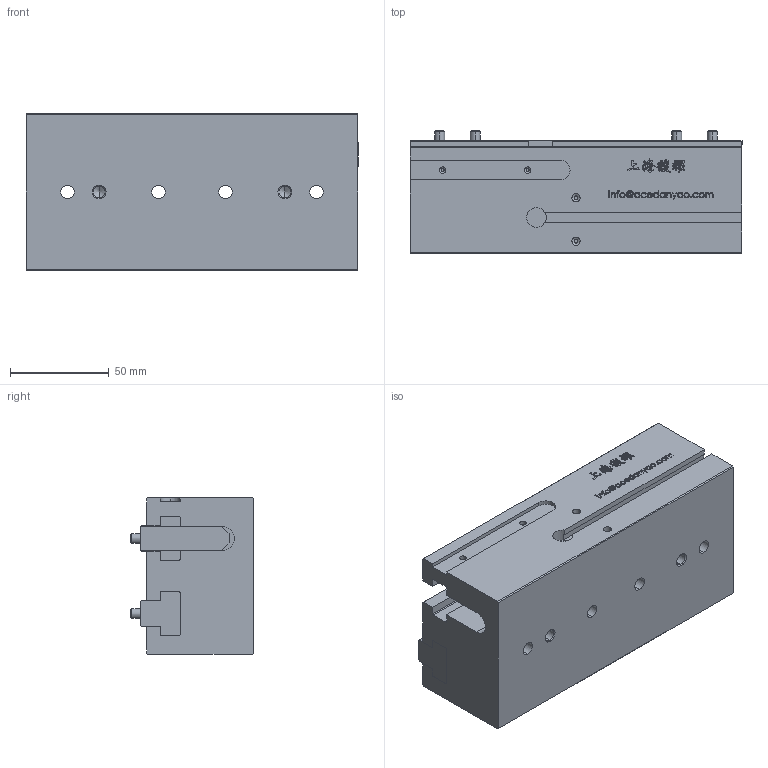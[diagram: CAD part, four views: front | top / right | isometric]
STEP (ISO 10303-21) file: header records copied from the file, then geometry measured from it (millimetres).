
FILE_DESCRIPTION (( 'STEP AP203' ), '1' );
FILE_NAME ('GPL25-60-原始檔-組合-W106.04.17.STEP', '2017-04-17T08:43:46', ( 'DanyaoCAD' ), ( '' ), 'SwSTEP 2.0', 'SolidWorks 2016', '' );
FILE_SCHEMA (( 'CONFIG_CONTROL_DESIGN' ));
Length unit declared in the file: millimetre
Products named in the file (3): Griffa; Corpo; GPL25-60-原始檔-組合-W106.04.17
Assembly tree (3 placements, depth 2):
  GPL25-60-原始檔-組合-W106.04.17
    Griffa  x2
    Corpo
Bounding box: 168 x 62 x 79 mm (x, y, z)
Volume: 629779.6 mm3; surface area: 105622 mm2
Topology: 3 solids, 3 shells, 1001 faces, 2773 edges, 1826 vertices
Faces by surface type: bspline 640, plane 259, cylinder 66, cone 36
Entity records: 46890 total; most frequent: CARTESIAN_POINT 26475, ORIENTED_EDGE 5286, EDGE_CURVE 2643, DIRECTION 2129, VERTEX_POINT 1753, B_SPLINE_CURVE_WITH_KNOTS 1280, LINE 1235, VECTOR 1235
